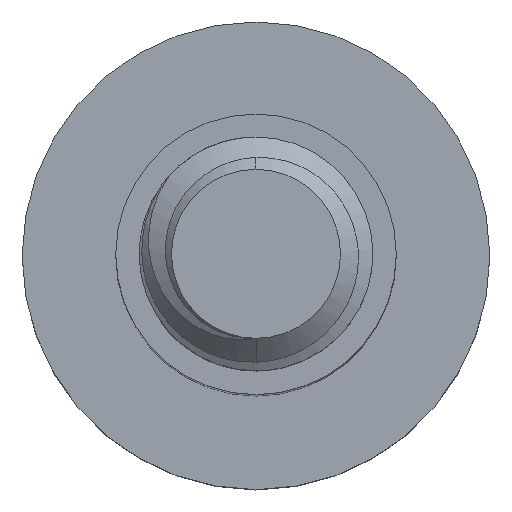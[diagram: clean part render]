
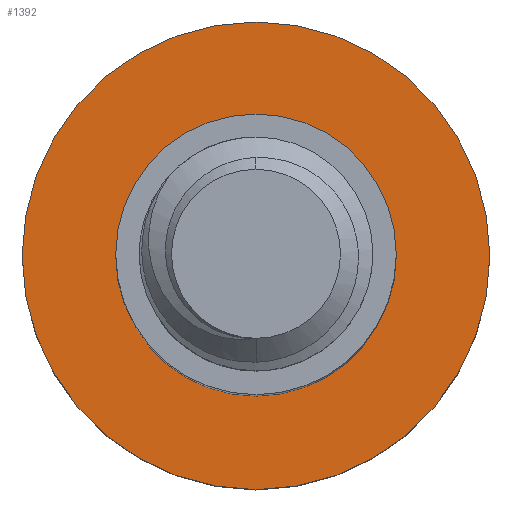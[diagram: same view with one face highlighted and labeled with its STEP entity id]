
A CAD part, top view. The second image highlights one B-rep face of the part: STEP entity #1392.
In plain terms, the highlighted planar face has unit normal (0, 0, 1).
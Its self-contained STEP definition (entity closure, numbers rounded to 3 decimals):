
#57 = AXIS2_PLACEMENT_3D ( 'NONE', #1561, #1727, #281 ) ;
#205 = EDGE_CURVE ( 'NONE', #1200, #917, #1055, .T. ) ;
#276 = DIRECTION ( 'NONE',  ( 0., 0., -1. ) ) ;
#281 = DIRECTION ( 'NONE',  ( -1., 0., 0. ) ) ;
#356 = ORIENTED_EDGE ( 'NONE', *, *, #205, .T. ) ;
#391 = DIRECTION ( 'NONE',  ( 0., 0., -1. ) ) ;
#394 = CARTESIAN_POINT ( 'NONE',  ( 3., 0., -18. ) ) ;
#438 = AXIS2_PLACEMENT_3D ( 'NONE', #940, #391, #1726 ) ;
#452 = CARTESIAN_POINT ( 'NONE',  ( 0., 0., -18. ) ) ;
#461 = CARTESIAN_POINT ( 'NONE',  ( 5., 0., -18. ) ) ;
#485 = FACE_OUTER_BOUND ( 'NONE', #1636, .T. ) ;
#604 = CIRCLE ( 'NONE', #1877, 5. ) ;
#637 = AXIS2_PLACEMENT_3D ( 'NONE', #1778, #1428, #1788 ) ;
#643 = PLANE ( 'NONE',  #2193 ) ;
#706 = VERTEX_POINT ( 'NONE', #1189 ) ;
#768 = ORIENTED_EDGE ( 'NONE', *, *, #1922, .T. ) ;
#820 = DIRECTION ( 'NONE',  ( -1., 0., 0. ) ) ;
#840 = VERTEX_POINT ( 'NONE', #461 ) ;
#917 = VERTEX_POINT ( 'NONE', #1845 ) ;
#940 = CARTESIAN_POINT ( 'NONE',  ( 0., 0., -18. ) ) ;
#1055 = CIRCLE ( 'NONE', #637, 3. ) ;
#1140 = CIRCLE ( 'NONE', #57, 3. ) ;
#1189 = CARTESIAN_POINT ( 'NONE',  ( -5., 0., -18. ) ) ;
#1200 = VERTEX_POINT ( 'NONE', #394 ) ;
#1238 = CARTESIAN_POINT ( 'NONE',  ( 0., 0., -18. ) ) ;
#1290 = EDGE_CURVE ( 'NONE', #706, #840, #1948, .T. ) ;
#1392 = ADVANCED_FACE ( 'NONE', ( #1560, #485 ), #643, .F. ) ;
#1401 = DIRECTION ( 'NONE',  ( -1., 0., 0. ) ) ;
#1428 = DIRECTION ( 'NONE',  ( 0., 0., -1. ) ) ;
#1560 = FACE_BOUND ( 'NONE', #2214, .T. ) ;
#1561 = CARTESIAN_POINT ( 'NONE',  ( 0., 0., -18. ) ) ;
#1567 = ORIENTED_EDGE ( 'NONE', *, *, #1290, .F. ) ;
#1636 = EDGE_LOOP ( 'NONE', ( #1647, #1567 ) ) ;
#1647 = ORIENTED_EDGE ( 'NONE', *, *, #2367, .F. ) ;
#1726 = DIRECTION ( 'NONE',  ( -1., 0., 0. ) ) ;
#1727 = DIRECTION ( 'NONE',  ( 0., 0., -1. ) ) ;
#1778 = CARTESIAN_POINT ( 'NONE',  ( 0., 0., -18. ) ) ;
#1788 = DIRECTION ( 'NONE',  ( -1., 0., 0. ) ) ;
#1845 = CARTESIAN_POINT ( 'NONE',  ( -3., 0., -18. ) ) ;
#1877 = AXIS2_PLACEMENT_3D ( 'NONE', #452, #276, #820 ) ;
#1922 = EDGE_CURVE ( 'NONE', #917, #1200, #1140, .T. ) ;
#1945 = DIRECTION ( 'NONE',  ( 0., 0., -1. ) ) ;
#1948 = CIRCLE ( 'NONE', #438, 5. ) ;
#2193 = AXIS2_PLACEMENT_3D ( 'NONE', #1238, #1945, #1401 ) ;
#2214 = EDGE_LOOP ( 'NONE', ( #768, #356 ) ) ;
#2367 = EDGE_CURVE ( 'NONE', #840, #706, #604, .T. ) ;
